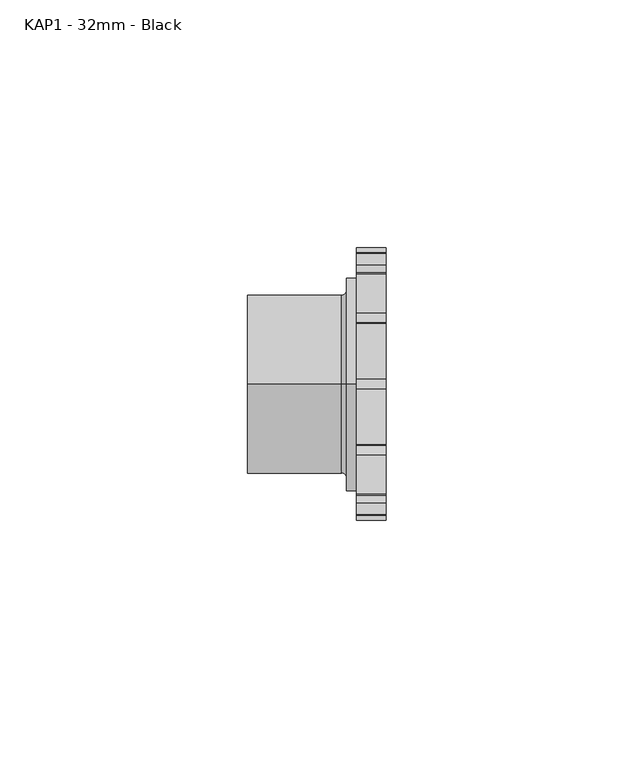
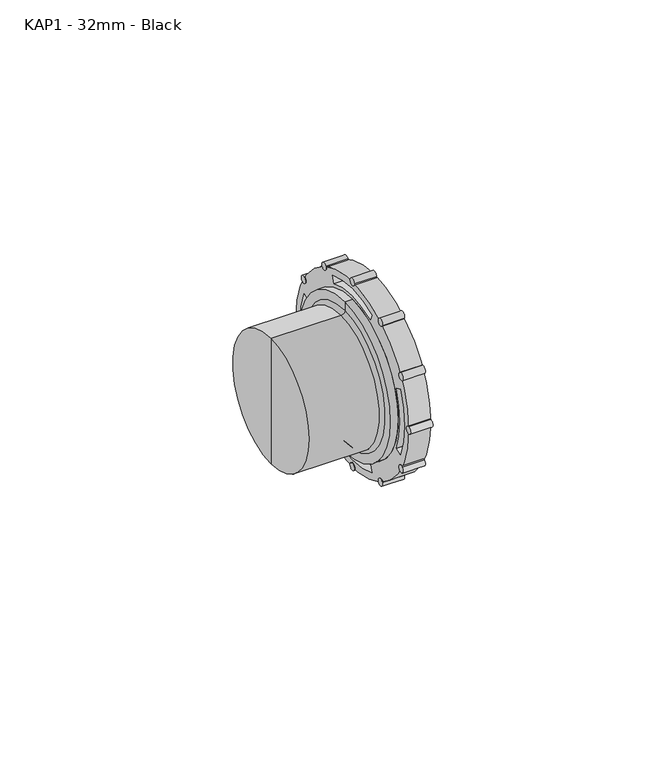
"""IFC4 building model written with IfcOpenShell, lengths in millimetres: pipe fitting geometry, MarleyPlumbingAndDrainage_PipeFitting_AccessPlug : KAP1 - 32mm - Black."""

from ifc_helpers import new_model, si_unit, point, frame, frame_2d, origin, place, context, project, spatial, polyline, circle_curve, ellipse_curve, trimmed, segment, composite_curve, outline, extrude, source, transform, mapped, element, save
from ifc_brep_helpers import plane_surface, cylinder_surface, revolved_surface, advanced_brep


def kap1_32mm_black_3edfe047(model_context):
    return source(origin(), model_context, "Body", "SolidModel", [
        extrude(outline(composite_curve([segment(trimmed(circle_curve(frame_2d((22.9496732, 13.25)), 1.0), [point((22.4496732, 14.1160254))], [point((23.4496732, 12.3839746))], False, "CARTESIAN"), True, "CONTINUOUS"), segment(trimmed(circle_curve(frame_2d((22.9496732, 13.25)), 1.0), [point((23.4496732, 12.3839746))], [point((22.4496732, 14.1160254))], False, "CARTESIAN"), True, "CONTINUOUS")], self_intersect=False)), frame((-330.6858175, 0.0, 0.0), z_axis=(1.0, 0.0, 0.0), x_axis=(0.0, 1.0, 0.0)), (0.0, 0.0, 1.0), 6.0),
        extrude(outline(composite_curve([segment(trimmed(circle_curve(frame_2d((26.5, 0.0)), 1.0), [point((26.5, 1.0))], [point((26.5, -1.0))], False, "CARTESIAN"), True, "CONTINUOUS"), segment(trimmed(circle_curve(frame_2d((26.5, 0.0)), 1.0), [point((26.5, -1.0))], [point((26.5, 1.0))], False, "CARTESIAN"), True, "CONTINUOUS")], self_intersect=False)), frame((-330.6858175, 0.0, 0.0), z_axis=(1.0, 0.0, 0.0), x_axis=(0.0, 1.0, 0.0)), (0.0, 0.0, 1.0), 6.0),
        extrude(outline(composite_curve([segment(trimmed(circle_curve(frame_2d((22.9496732, -13.25)), 1.0), [point((23.4496732, -12.3839746))], [point((22.4496732, -14.1160254))], False, "CARTESIAN"), True, "CONTINUOUS"), segment(trimmed(circle_curve(frame_2d((22.9496732, -13.25)), 1.0), [point((22.4496732, -14.1160254))], [point((23.4496732, -12.3839746))], False, "CARTESIAN"), True, "CONTINUOUS")], self_intersect=False)), frame((-330.6858175, 0.0, 0.0), z_axis=(1.0, 0.0, 0.0), x_axis=(0.0, 1.0, 0.0)), (0.0, 0.0, 1.0), 6.0),
        extrude(outline(composite_curve([segment(trimmed(circle_curve(frame_2d((13.25, -22.9496732)), 1.0), [point((14.1160254, -22.4496732))], [point((12.3839746, -23.4496732))], False, "CARTESIAN"), True, "CONTINUOUS"), segment(trimmed(circle_curve(frame_2d((13.25, -22.9496732)), 1.0), [point((12.3839746, -23.4496732))], [point((14.1160254, -22.4496732))], False, "CARTESIAN"), True, "CONTINUOUS")], self_intersect=False)), frame((-330.6858175, 0.0, 0.0), z_axis=(1.0, 0.0, 0.0), x_axis=(0.0, 1.0, 0.0)), (0.0, 0.0, 1.0), 6.0),
        extrude(outline(composite_curve([segment(trimmed(circle_curve(frame_2d((0.0, -26.5)), 1.0), [point((1.0, -26.5))], [point((-1.0, -26.5))], False, "CARTESIAN"), True, "CONTINUOUS"), segment(trimmed(circle_curve(frame_2d((0.0, -26.5)), 1.0), [point((-1.0, -26.5))], [point((1.0, -26.5))], False, "CARTESIAN"), True, "CONTINUOUS")], self_intersect=False)), frame((-330.6858175, 0.0, 0.0), z_axis=(1.0, 0.0, 0.0), x_axis=(0.0, 1.0, 0.0)), (0.0, 0.0, 1.0), 6.0),
        extrude(outline(composite_curve([segment(trimmed(circle_curve(frame_2d((-13.25, -22.9496732)), 1.0), [point((-12.3839746, -23.4496732))], [point((-14.1160254, -22.4496732))], False, "CARTESIAN"), True, "CONTINUOUS"), segment(trimmed(circle_curve(frame_2d((-13.25, -22.9496732)), 1.0), [point((-14.1160254, -22.4496732))], [point((-12.3839746, -23.4496732))], False, "CARTESIAN"), True, "CONTINUOUS")], self_intersect=False)), frame((-330.6858175, 0.0, 0.0), z_axis=(1.0, 0.0, 0.0), x_axis=(0.0, 1.0, 0.0)), (0.0, 0.0, 1.0), 6.0),
        extrude(outline(composite_curve([segment(trimmed(circle_curve(frame_2d((-22.9496732, -13.25)), 1.0), [point((-22.4496732, -14.1160254))], [point((-23.4496732, -12.3839746))], False, "CARTESIAN"), True, "CONTINUOUS"), segment(trimmed(circle_curve(frame_2d((-22.9496732, -13.25)), 1.0), [point((-23.4496732, -12.3839746))], [point((-22.4496732, -14.1160254))], False, "CARTESIAN"), True, "CONTINUOUS")], self_intersect=False)), frame((-330.6858175, 0.0, 0.0), z_axis=(1.0, 0.0, 0.0), x_axis=(0.0, 1.0, 0.0)), (0.0, 0.0, 1.0), 6.0),
        extrude(outline(composite_curve([segment(trimmed(circle_curve(frame_2d((-26.5, 0.0)), 1.0), [point((-26.5, -1.0))], [point((-26.5, 1.0))], False, "CARTESIAN"), True, "CONTINUOUS"), segment(trimmed(circle_curve(frame_2d((-26.5, 0.0)), 1.0), [point((-26.5, 1.0))], [point((-26.5, -1.0))], False, "CARTESIAN"), True, "CONTINUOUS")], self_intersect=False)), frame((-330.6858175, 0.0, 0.0), z_axis=(1.0, 0.0, 0.0), x_axis=(0.0, 1.0, 0.0)), (0.0, 0.0, 1.0), 6.0),
        extrude(outline(composite_curve([segment(trimmed(circle_curve(frame_2d((-22.9496732, 13.25)), 1.0), [point((-23.4496732, 12.3839746))], [point((-22.4496732, 14.1160254))], False, "CARTESIAN"), True, "CONTINUOUS"), segment(trimmed(circle_curve(frame_2d((-22.9496732, 13.25)), 1.0), [point((-22.4496732, 14.1160254))], [point((-23.4496732, 12.3839746))], False, "CARTESIAN"), True, "CONTINUOUS")], self_intersect=False)), frame((-330.6858175, 0.0, 0.0), z_axis=(1.0, 0.0, 0.0), x_axis=(0.0, 1.0, 0.0)), (0.0, 0.0, 1.0), 6.0),
        extrude(outline(composite_curve([segment(trimmed(circle_curve(frame_2d((-13.25, 22.9496732)), 1.0), [point((-14.1160254, 22.4496732))], [point((-12.3839746, 23.4496732))], False, "CARTESIAN"), True, "CONTINUOUS"), segment(trimmed(circle_curve(frame_2d((-13.25, 22.9496732)), 1.0), [point((-12.3839746, 23.4496732))], [point((-14.1160254, 22.4496732))], False, "CARTESIAN"), True, "CONTINUOUS")], self_intersect=False)), frame((-330.6858175, 0.0, 0.0), z_axis=(1.0, 0.0, 0.0), x_axis=(0.0, 1.0, 0.0)), (0.0, 0.0, 1.0), 6.0),
        extrude(outline(composite_curve([segment(trimmed(circle_curve(frame_2d((13.25, 22.9496732)), 1.0), [point((12.3839746, 23.4496732))], [point((14.1160254, 22.4496732))], False, "CARTESIAN"), True, "CONTINUOUS"), segment(trimmed(circle_curve(frame_2d((13.25, 22.9496732)), 1.0), [point((14.1160254, 22.4496732))], [point((12.3839746, 23.4496732))], False, "CARTESIAN"), True, "CONTINUOUS")], self_intersect=False)), frame((-330.6858175, 0.0, 0.0), z_axis=(1.0, 0.0, 0.0), x_axis=(0.0, 1.0, 0.0)), (0.0, 0.0, 1.0), 6.0),
        extrude(outline(composite_curve([segment(trimmed(circle_curve(frame_2d((0.0, 26.5)), 1.0), [point((-1.0, 26.5))], [point((1.0, 26.5))], False, "CARTESIAN"), True, "CONTINUOUS"), segment(trimmed(circle_curve(frame_2d((0.0, 26.5)), 1.0), [point((1.0, 26.5))], [point((-1.0, 26.5))], False, "CARTESIAN"), True, "CONTINUOUS")], self_intersect=False)), frame((-330.6858175, 0.0, 0.0), z_axis=(1.0, 0.0, 0.0), x_axis=(0.0, 1.0, 0.0)), (0.0, 0.0, 1.0), 6.0),
        advanced_brep(
        [(-324.6858175, -26.5, 0.0), (-324.6858175, 26.5, 0.0), (-324.6858175, -9.3757441, -22.6350485), (-324.6858175, -8.6103772, -20.7872895), (-324.6858175, 8.6103772, -20.7872895), (-324.6858175, 9.3757441, -22.6350485), (-324.6858175, 22.6350485, -9.3757441), (-324.6858175, 20.7872895, -8.6103772), (-324.6858175, 20.7872895, 8.6103772), (-324.6858175, 22.6350485, 9.3757441), (-324.6858175, -20.7872895, 8.6103772), (-324.6858175, -20.7872895, -8.6103772), (-324.6858175, -22.6350485, -9.3757441), (-324.6858175, -22.6350485, 9.3757441), (-324.6858175, -8.6103772, 20.7872895), (-324.6858175, -9.3757441, 22.6350485), (-324.6858175, 9.3757441, 22.6350485), (-324.6858175, 8.6103772, 20.7872895), (-330.6858175, -26.5, 0.0), (-330.6858175, 26.5, 0.0), (-330.6858175, 0.0, -21.5), (-330.6858175, 0.0, 21.5), (-330.6858175, -8.6103772, -20.7872895), (-330.6858175, -9.3757441, -22.6350485), (-330.6858175, 9.3757441, -22.6350485), (-330.6858175, 8.6103772, -20.7872895), (-330.6858175, 20.7872895, -8.6103772), (-330.6858175, 22.6350485, -9.3757441), (-330.6858175, 22.6350485, 9.3757441), (-330.6858175, 20.7872895, 8.6103772), (-330.6858175, -20.7872895, -8.6103772), (-330.6858175, -20.7872895, 8.6103772), (-330.6858175, -22.6350485, 9.3757441), (-330.6858175, -22.6350485, -9.3757441), (-330.6858175, -9.3757441, 22.6350485), (-330.6858175, -8.6103772, 20.7872895), (-330.6858175, 8.6103772, 20.7872895), (-330.6858175, 9.3757441, 22.6350485), (-332.6858175, 0.0, -21.5), (-332.6858175, 0.0, 21.5), (-332.6858175, 0.0, -19.0), (-332.6858175, 0.0, 19.0), (-333.6858175, 0.0, -18.0), (-333.6858175, 0.0, 18.0), (-352.6858175, 0.0, -18.0), (-352.6858175, 0.0, 18.0), (-352.6858175, 0.0, 0.0)],
        [
            (0, 1, circle_curve(frame((-324.6858175, 0.0, 0.0), z_axis=(1.0, 0.0, 0.0), x_axis=(0.0, 1.0, 0.0)), 26.5)),
            (1, 0, circle_curve(frame((-324.6858175, 0.0, 0.0), z_axis=(1.0, 0.0, 0.0), x_axis=(0.0, 1.0, 0.0)), 26.5)),
            (2, 3),
            (3, 4, circle_curve(frame((-324.6858175, 0.0, 0.0), z_axis=(1.0, 0.0, 0.0), x_axis=(0.0, 1.0, 0.0)), 22.5)),
            (4, 5),
            (5, 2, circle_curve(frame((-324.6858175, 0.0, 0.0), z_axis=(-1.0, 0.0, 0.0), x_axis=(0.0, 1.0, 0.0)), 24.5)),
            (6, 7),
            (7, 8, circle_curve(frame((-324.6858175, 0.0, 0.0), z_axis=(1.0, 0.0, 0.0), x_axis=(0.0, 1.0, 0.0)), 22.5)),
            (8, 9),
            (9, 6, circle_curve(frame((-324.6858175, 0.0, 0.0), z_axis=(-1.0, 0.0, 0.0), x_axis=(0.0, 1.0, 0.0)), 24.5)),
            (10, 11, circle_curve(frame((-324.6858175, 0.0, 0.0), z_axis=(1.0, 0.0, 0.0), x_axis=(0.0, 1.0, 0.0)), 22.5)),
            (11, 12),
            (12, 13, circle_curve(frame((-324.6858175, 0.0, 0.0), z_axis=(-1.0, 0.0, 0.0), x_axis=(0.0, 1.0, 0.0)), 24.5)),
            (13, 10),
            (14, 15),
            (15, 16, circle_curve(frame((-324.6858175, 0.0, 0.0), z_axis=(-1.0, 0.0, 0.0), x_axis=(0.0, 1.0, 0.0)), 24.5)),
            (16, 17),
            (17, 14, circle_curve(frame((-324.6858175, 0.0, 0.0), z_axis=(1.0, 0.0, 0.0), x_axis=(0.0, 1.0, 0.0)), 22.5)),
            (18, 19, circle_curve(frame((-330.6858175, 0.0, 0.0), z_axis=(-1.0, 0.0, 0.0), x_axis=(0.0, 1.0, 0.0)), 26.5)),
            (19, 18, circle_curve(frame((-330.6858175, 0.0, 0.0), z_axis=(-1.0, 0.0, 0.0), x_axis=(0.0, 1.0, 0.0)), 26.5)),
            (20, 21, circle_curve(frame((-330.6858175, 0.0, 0.0), z_axis=(1.0, 0.0, 0.0), x_axis=(0.0, 0.0, 1.0)), 21.5)),
            (21, 20, circle_curve(frame((-330.6858175, 0.0, 0.0), z_axis=(1.0, 0.0, 0.0), x_axis=(0.0, 0.0, 1.0)), 21.5)),
            (22, 23),
            (23, 24, circle_curve(frame((-330.6858175, 0.0, 0.0), z_axis=(1.0, 0.0, 0.0), x_axis=(0.0, 1.0, 0.0)), 24.5)),
            (24, 25),
            (25, 22, circle_curve(frame((-330.6858175, 0.0, 0.0), z_axis=(-1.0, 0.0, 0.0), x_axis=(0.0, 1.0, 0.0)), 22.5)),
            (26, 27),
            (27, 28, circle_curve(frame((-330.6858175, 0.0, 0.0), z_axis=(1.0, 0.0, 0.0), x_axis=(0.0, 1.0, 0.0)), 24.5)),
            (28, 29),
            (29, 26, circle_curve(frame((-330.6858175, 0.0, 0.0), z_axis=(-1.0, 0.0, 0.0), x_axis=(0.0, 1.0, 0.0)), 22.5)),
            (30, 31, circle_curve(frame((-330.6858175, 0.0, 0.0), z_axis=(-1.0, 0.0, 0.0), x_axis=(0.0, 1.0, 0.0)), 22.5)),
            (31, 32),
            (32, 33, circle_curve(frame((-330.6858175, 0.0, 0.0), z_axis=(1.0, 0.0, 0.0), x_axis=(0.0, 1.0, 0.0)), 24.5)),
            (33, 30),
            (34, 35),
            (35, 36, circle_curve(frame((-330.6858175, 0.0, 0.0), z_axis=(-1.0, 0.0, 0.0), x_axis=(0.0, 1.0, 0.0)), 22.5)),
            (36, 37),
            (37, 34, circle_curve(frame((-330.6858175, 0.0, 0.0), z_axis=(1.0, 0.0, 0.0), x_axis=(0.0, 1.0, 0.0)), 24.5)),
            (0, 18),
            (19, 1),
            (2, 23),
            (22, 3),
            (5, 24),
            (4, 25),
            (6, 27),
            (26, 7),
            (9, 28),
            (8, 29),
            (10, 31),
            (30, 11),
            (13, 32),
            (12, 33),
            (14, 35),
            (34, 15),
            (17, 36),
            (16, 37),
            (38, 39, circle_curve(frame((-332.6858175, 0.0, 0.0), z_axis=(1.0, 0.0, 0.0), x_axis=(0.0, 0.0, 1.0)), 21.5)),
            (39, 21),
            (20, 38),
            (39, 38, circle_curve(frame((-332.6858175, 0.0, 0.0), z_axis=(1.0, 0.0, 0.0), x_axis=(0.0, 0.0, 1.0)), 21.5)),
            (38, 40),
            (40, 41, circle_curve(frame((-332.6858175, 0.0, 0.0), z_axis=(1.0, 0.0, 0.0), x_axis=(0.0, 0.0, 1.0)), 19.0)),
            (41, 39),
            (41, 40, circle_curve(frame((-332.6858175, 0.0, 0.0), z_axis=(1.0, 0.0, 0.0), x_axis=(0.0, 0.0, 1.0)), 19.0)),
            (40, 42, circle_curve(frame((-333.6858175, 0.0, -19.0), z_axis=(0.0, -1.0, 0.0), x_axis=(1.0, 0.0, 0.0)), 1.0)),
            (42, 43, circle_curve(frame((-333.6858175, 0.0, 0.0), z_axis=(1.0, 0.0, 0.0), x_axis=(0.0, 0.0, 1.0)), 18.0)),
            (43, 41, circle_curve(frame((-333.6858175, 0.0, 19.0), z_axis=(0.0, -1.0, 0.0), x_axis=(1.0, 0.0, 0.0)), 1.0)),
            (43, 42, circle_curve(frame((-333.6858175, 0.0, 0.0), z_axis=(1.0, 0.0, 0.0), x_axis=(0.0, 0.0, 1.0)), 18.0)),
            (42, 44),
            (44, 45, circle_curve(frame((-352.6858175, 0.0, 0.0), z_axis=(1.0, 0.0, 0.0), x_axis=(0.0, 0.0, 1.0)), 18.0)),
            (45, 43),
            (45, 44, circle_curve(frame((-352.6858175, 0.0, 0.0), z_axis=(1.0, 0.0, 0.0), x_axis=(0.0, 0.0, 1.0)), 18.0)),
            (44, 46),
            (46, 45),
        ],
        [
            plane_surface(frame((-324.6858175, 26.5, 0.0), z_axis=(1.0, 0.0, 0.0), x_axis=(0.0, 0.0, 1.0))),
            plane_surface(frame((-330.6858175, 26.5, 0.0), z_axis=(-1.0, 0.0, 0.0), x_axis=(0.0, 0.0, -1.0))),
            cylinder_surface(frame((-330.6858175, 0.0, 0.0), z_axis=(1.0, 0.0, 0.0), x_axis=(0.0, 1.0, 0.0)), 26.5),
            plane_surface(frame((-324.6858175, -8.6103772, -20.7872895), z_axis=(0.0, 0.9238795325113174, -0.382683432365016), x_axis=(-1.0, 0.0, 0.0))),
            revolved_surface(polyline([(-324.6858175, 24.5, 0.0), (-330.6858175, 24.5, 0.0)]), (-330.6858175, 0.0, 0.0), (1.0, 0.0, 0.0)),
            plane_surface(frame((-324.6858175, 9.3757441, -22.6350485), z_axis=(0.0, -0.923879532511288, -0.3826834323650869), x_axis=(-1.0, 0.0, 0.0))),
            cylinder_surface(frame((-330.6858175, 0.0, 0.0), z_axis=(-1.0, 0.0, 0.0), x_axis=(0.0, 1.0, 0.0)), 22.5),
            plane_surface(frame((-324.6858175, 20.7872895, -8.6103772), z_axis=(0.0, 0.3826834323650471, 0.9238795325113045), x_axis=(-1.0, 0.0, 0.0))),
            plane_surface(frame((-324.6858175, 22.6350485, 9.3757441), z_axis=(0.0, 0.38268343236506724, -0.9238795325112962), x_axis=(-1.0, 0.0, 0.0))),
            plane_surface(frame((-324.6858175, -20.7872895, 8.6103772), z_axis=(0.0, -0.38268343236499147, -0.9238795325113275), x_axis=(-1.0, 0.0, 0.0))),
            plane_surface(frame((-324.6858175, -22.6350485, -9.3757441), z_axis=(0.0, -0.3826834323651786, 0.92387953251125), x_axis=(-1.0, 0.0, 0.0))),
            plane_surface(frame((-324.6858175, -9.3757441, 22.6350485), z_axis=(0.0, 0.9238795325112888, 0.3826834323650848), x_axis=(-1.0, 0.0, 0.0))),
            plane_surface(frame((-324.6858175, 8.6103772, 20.7872895), z_axis=(0.0, -0.9238795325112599, 0.38268343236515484), x_axis=(-1.0, 0.0, 0.0))),
            cylinder_surface(frame((-1511.0299635, 0.0, 0.0), z_axis=(-1.0, 0.0, 0.0), x_axis=(0.0, 0.0, 1.0)), 21.5),
            plane_surface(frame((-332.6858175, 0.0, 0.0), z_axis=(-1.0, 0.0, 0.0), x_axis=(0.0, 0.0, 1.0))),
            revolved_surface(trimmed(ellipse_curve(frame((-333.6858175, 0.0, 19.0), z_axis=(0.0, 1.0, 0.0), x_axis=(1.0, 0.0, 0.0)), 1.0, 1.0), [point((-332.6858175, 0.0, 19.0))], [point((-333.6858175, 0.0, 18.0))], True, "CARTESIAN"), (-1511.0299635, 0.0, 0.0), (-1.0, 0.0, 0.0)),
            cylinder_surface(frame((-1511.0299635, 0.0, 0.0), z_axis=(-1.0, 0.0, 0.0), x_axis=(0.0, 0.0, 1.0)), 18.0),
            plane_surface(frame((-352.6858175, 0.0, 0.0), z_axis=(-1.0, 0.0, 0.0), x_axis=(0.0, 0.0, 1.0))),
        ],
        [
            (0, [[1, 2], [3, 4, 5, 6], [7, 8, 9, 10], [11, 12, 13, 14], [15, 16, 17, 18]]),
            (1, [[19, 20], [21, 22], [23, 24, 25, 26], [27, 28, 29, 30], [31, 32, 33, 34], [35, 36, 37, 38]]),
            (2, [[-1, 39, -20, 40]]),
            (2, [[-2, -40, -19, -39]]),
            (3, [[41, -23, 42, -3]]),
            (4, [[-41, -6, 43, -24]]),
            (5, [[-43, -5, 44, -25]]),
            (6, [[-42, -26, -44, -4]]),
            (7, [[45, -27, 46, -7]]),
            (4, [[-45, -10, 47, -28]]),
            (8, [[-47, -9, 48, -29]]),
            (6, [[-46, -30, -48, -8]]),
            (6, [[49, -31, 50, -11]]),
            (9, [[-49, -14, 51, -32]]),
            (4, [[-51, -13, 52, -33]]),
            (10, [[-50, -34, -52, -12]]),
            (11, [[53, -35, 54, -15]]),
            (6, [[-53, -18, 55, -36]]),
            (12, [[-55, -17, 56, -37]]),
            (4, [[-54, -38, -56, -16]]),
            (13, [[57, 58, -21, 59]]),
            (13, [[-58, 60, -59, -22]]),
            (14, [[-57, 61, 62, 63]]),
            (14, [[-60, -63, 64, -61]]),
            (15, [[-62, 65, 66, 67]]),
            (15, [[-64, -67, 68, -65]]),
            (16, [[-66, 69, 70, 71]]),
            (16, [[-68, -71, 72, -69]]),
            (17, [[-70, 73, 74]]),
            (17, [[-72, -74, -73]]),
        ],
    ),
    ])


if __name__ == "__main__":
    model = new_model("IFC4")
    model_context = context("Model", 3, world=origin())
    ifc_project = project(units=[si_unit("LENGTHUNIT", "METRE", prefix="MILLI")], contexts=[model_context])
    site = spatial("IfcSite", under=ifc_project)
    building = spatial("IfcBuilding", under=site)
    placement = place(None, origin())
    kap1_32mm_black_shape = kap1_32mm_black_3edfe047(model_context)
    element("IfcPipeFitting", 1, ObjectType="MarleyPlumbingAndDrainage_PipeFitting_AccessPlug : KAP1 - 32mm - Black", at=placement, inside=building, context=model_context, shape_type="MappedRepresentation", body=[
        mapped(kap1_32mm_black_shape, transform((0.0, 0.0, 0.0), x_axis=(1.0, 0.0, 0.0), y_axis=(0.0, 1.0, 0.0), z_axis=(0.0, 0.0, 1.0))),
    ])
    save(model, "model.ifc")
